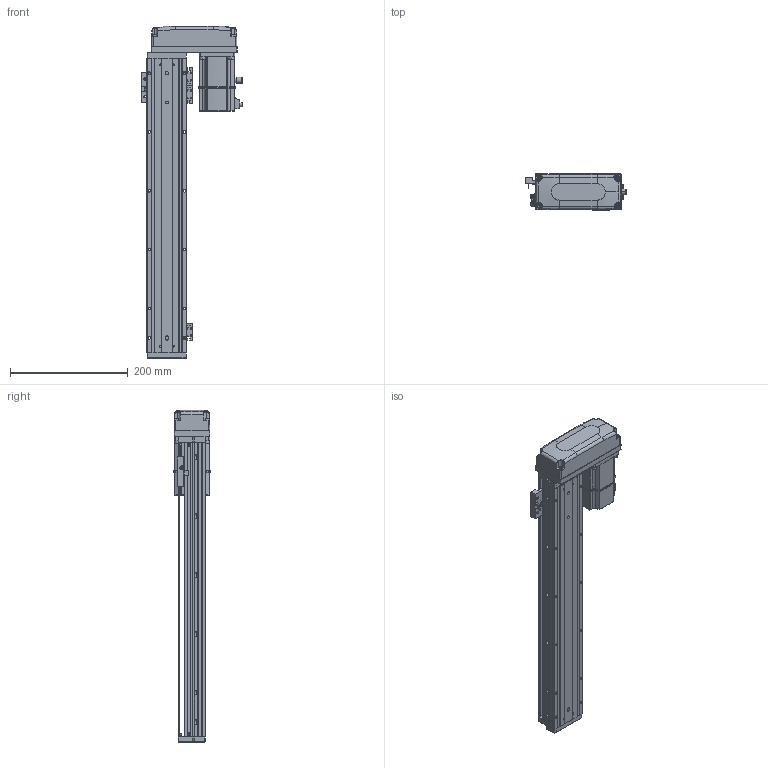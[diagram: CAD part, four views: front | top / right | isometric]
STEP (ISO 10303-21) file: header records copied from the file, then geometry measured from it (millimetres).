
FILE_DESCRIPTION (( 'STEP AP203' ), '1' );
FILE_NAME ('KTHA60-400-BL-M20-C4L.step', '2022-12-16T01:32:13', ( '微软用户' ), ( '微软中国' ), 'SwSTEP 2.0', 'SolidWorks 2020', '' );
FILE_SCHEMA (( 'CONFIG_CONTROL_DESIGN' ));
Length unit declared in the file: millimetre
Products named in the file (17): CTHA60-006-2_CTHA60-006-2; KTHA60-004; GBT 70.1-M4×16; _X2_4E0983F1_X0_200W_1; KTHA60-005; GBT77-2000M3-3; KTHA60-400-BL-M20-C4L; GB¨uT 70.2-M3¡Á5_M3¡Á6; GBT 70.1-M3℅6; GBT 70.3-M3℅6; CTHA60-016; EE_SX911P_R; KTHA60-002; CTHA60-017; BTH80-026; KTHA60-001_500; CTHA60-021
Assembly tree (51 placements, depth 2):
  KTHA60-400-BL-M20-C4L
    KTHA60-001_500
    KTHA60-004
    KTHA60-005
    GB¨uT 70.2-M3¡Á5_M3¡Á6  x6
    GBT 70.3-M3℅6  x4
    EE_SX911P_R  x3
    CTHA60-017  x3
    CTHA60-021  x2
    GBT 70.1-M4×16  x8
    GBT77-2000M3-3  x6
    GBT 70.1-M3℅6  x10
    CTHA60-016  x2
    KTHA60-002
    BTH80-026
    CTHA60-006-2_CTHA60-006-2
    _X2_4E0983F1_X0_200W_1
Bounding box: 172.1 x 62.42 x 564 mm (x, y, z)
Volume: 1325472 mm3; surface area: 350514.9 mm2
Topology: 54 solids, 54 shells, 2428 faces, 5773 edges, 3550 vertices
Faces by surface type: plane 1285, cylinder 644, cone 282, bspline 109, torus 92, sphere 16
Entity records: 44886 total; most frequent: CARTESIAN_POINT 10482, ORIENTED_EDGE 6594, DIRECTION 6588, EDGE_CURVE 3297, AXIS2_PLACEMENT_3D 2275, VERTEX_POINT 2059, VECTOR 2038, LINE 2038
